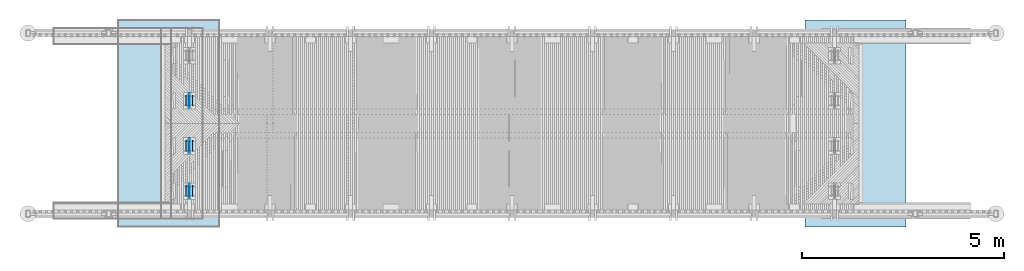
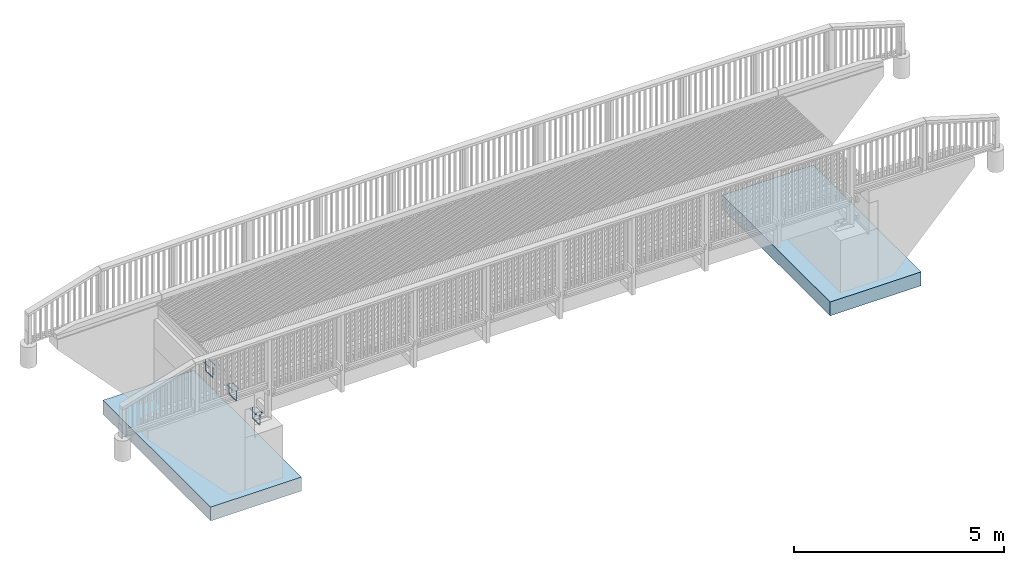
# One storey, part 1 of 52: 6 reinforcing bars, 3 mechanical fasteners, 2 slabs.
"""IFC2X3 building model written with IfcOpenShell, lengths in millimetres."""

from ifc_helpers import new_model, si_unit, frame, origin_with_axes, place, context, subcontext, project, spatial, faceted_brep, source, transform, mapped, material, type_object, element, save


model = new_model("IFC2X3")

# Units and contexts
model_context = context("Model", 3, precision=1e-05, world=origin_with_axes())
body_context = subcontext(model_context, "Body", "Model", "MODEL_VIEW")
ifc_project = project(units=[si_unit("LENGTHUNIT", "METRE", prefix="MILLI"), si_unit("AREAUNIT", "SQUARE_METRE"), si_unit("VOLUMEUNIT", "CUBIC_METRE"), si_unit("MASSUNIT", "GRAM", prefix="KILO"), si_unit("TIMEUNIT", "SECOND"), si_unit("PLANEANGLEUNIT", "RADIAN"), si_unit("SOLIDANGLEUNIT", "STERADIAN"), si_unit("THERMODYNAMICTEMPERATUREUNIT", "DEGREE_CELSIUS"), si_unit("LUMINOUSINTENSITYUNIT", "LUMEN")], contexts=[model_context])

# Site, building, storey
site_placement = place(None, origin_with_axes())
site = spatial("IfcSite", under=ifc_project, at=site_placement, Name="Undefined", CompositionType="ELEMENT")
building_placement = place(site_placement, origin_with_axes())
building = spatial("IfcBuilding", under=site, at=building_placement, Name="Undefined", CompositionType="ELEMENT")
storey_placement = place(building_placement, origin_with_axes())
storey = spatial("IfcBuildingStorey", under=building, at=storey_placement, Name="Undefined", CompositionType="ELEMENT", Elevation=0.0)

# Slabs
ifc_material_1 = material(Name="CONCRETE/Concrete_Undefined")
slab_type = type_object("IfcSlabType", Name="400*2500", PredefinedType="NOTDEFINED")
for number, where, z_axis, x_axis in (
    (1, (17765.0, 4930.0, 200.0), (-1.0, 0.0, 0.0), (0.0, -1.0, 0.0)),
    (2, (-1765.0, 4930.0, 200.0), (1.0, 0.0, 0.0), (0.0, -1.0, 0.0)),
):
    element("IfcSlab", number, at=place(storey_placement, frame(where, z_axis=z_axis, x_axis=x_axis)), inside=storey, type_object=slab_type, material=ifc_material_1, Name="PERUSLAATTA", ObjectType="400*2500", PredefinedType="FLOOR", context=body_context, shape_type="Brep", body=[
        faceted_brep([(0.0, -200.0, 0.0), (0.0, -200.0, 2500.0), (0.0, 200.0, 2500.0), (0.0, 200.0, 0.0), (5130.0, -200.0, 2500.0), (5130.0, 200.0, 2500.0), (5130.0, -200.0, 0.0), (5130.0, 200.0, 0.0)], [[[0, 1, 2, 3]], [[1, 4, 5, 2]], [[4, 6, 7, 5]], [[6, 0, 3, 7]], [[5, 7, 3, 2]], [[6, 4, 1, 0]]]),
    ])

# Reinforcing bars
ifc_material_2 = material(Name="A500HW")
shared_shape_1 = source(origin_with_axes(), body_context, "Body", "Brep", [
    faceted_brep([(9.95929214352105, -5.74999999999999, -1.31778448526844e-16), (9.95929214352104, 5.75000000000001, -1.31778448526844e-16), (-4.46864767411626e-15, 11.5, 5.31556664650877e-32), (-9.95929214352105, 5.75, 1.31778448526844e-16), (-9.95929214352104, -5.75, 1.31778448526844e-16), (0.0, -11.5, 0.0), (-9.95929214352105, -5.75, -268.5), (-3.5527136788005e-15, -11.5, -268.5), (-9.95929214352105, 5.75, -268.5), (-8.02136135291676e-15, 11.5, -268.5), (9.95929214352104, 5.75000000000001, -268.5), (9.95929214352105, -5.74999999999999, -268.5), (-4.40480021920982, -5.75, -289.229646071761), (4.22019978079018, -11.5, -284.25), (-4.40480021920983, 5.75, -289.229646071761), (4.22019978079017, 11.5, -284.25), (12.8451997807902, 5.75000000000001, -279.27035392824), (12.8451997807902, -5.74999999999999, -279.27035392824), (10.7703539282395, -5.75, -304.40480021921), (15.75, -11.5, -295.77980021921), (10.7703539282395, 5.75, -304.40480021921), (15.75, 11.5, -295.77980021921), (20.7296460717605, 5.75000000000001, -287.15480021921), (20.7296460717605, -5.74999999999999, -287.15480021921), (31.5, -5.75, -309.959292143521), (31.5, -11.5, -300.0), (31.5, 5.75, -309.959292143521), (31.5, 11.5, -300.0), (31.5, 5.75000000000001, -290.040707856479), (31.5, -5.74999999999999, -290.040707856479), (323.5, -5.75, -309.959292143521), (323.5, -11.5, -300.0), (323.5, 5.75, -309.959292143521), (323.5, 11.5, -300.0), (323.5, 5.75000000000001, -290.040707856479), (323.5, -5.74999999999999, -290.040707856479), (344.229646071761, -5.75, -304.40480021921), (339.25, -11.5, -295.77980021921), (344.229646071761, 5.75, -304.40480021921), (339.25, 11.5, -295.77980021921), (334.270353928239, 5.75000000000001, -287.15480021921), (334.270353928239, -5.74999999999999, -287.15480021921), (359.40480021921, -5.75, -289.229646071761), (350.77980021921, -11.5, -284.25), (359.40480021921, 5.75, -289.229646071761), (350.77980021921, 11.5, -284.25), (342.15480021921, 5.75000000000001, -279.27035392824), (342.15480021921, -5.74999999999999, -279.27035392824), (364.959292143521, -5.75, -268.5), (355.0, -11.5, -268.5), (364.959292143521, 5.75, -268.5), (355.0, 11.5, -268.5), (345.040707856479, 5.75000000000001, -268.5), (345.040707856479, -5.74999999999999, -268.5), (364.959292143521, -5.75, 0.0), (355.0, -11.5, 0.0), (364.959292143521, 5.75, 0.0), (355.0, 11.5, 0.0), (345.040707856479, 5.75000000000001, 0.0), (345.040707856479, -5.74999999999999, 0.0)], [[[0, 1, 2, 3, 4, 5]], [[5, 4, 6, 7]], [[4, 3, 8, 6]], [[3, 2, 9, 8]], [[2, 1, 10, 9]], [[1, 0, 11, 10]], [[0, 5, 7, 11]], [[7, 6, 12, 13]], [[6, 8, 14, 12]], [[8, 9, 15, 14]], [[9, 10, 16, 15]], [[10, 11, 17, 16]], [[11, 7, 13, 17]], [[13, 12, 18, 19]], [[12, 14, 20, 18]], [[14, 15, 21, 20]], [[15, 16, 22, 21]], [[16, 17, 23, 22]], [[17, 13, 19, 23]], [[19, 18, 24, 25]], [[18, 20, 26, 24]], [[20, 21, 27, 26]], [[21, 22, 28, 27]], [[22, 23, 29, 28]], [[23, 19, 25, 29]], [[25, 24, 30, 31]], [[24, 26, 32, 30]], [[26, 27, 33, 32]], [[27, 28, 34, 33]], [[28, 29, 35, 34]], [[29, 25, 31, 35]], [[31, 30, 36, 37]], [[30, 32, 38, 36]], [[32, 33, 39, 38]], [[33, 34, 40, 39]], [[34, 35, 41, 40]], [[35, 31, 37, 41]], [[37, 36, 42, 43]], [[36, 38, 44, 42]], [[38, 39, 45, 44]], [[39, 40, 46, 45]], [[40, 41, 47, 46]], [[41, 37, 43, 47]], [[43, 42, 48, 49]], [[42, 44, 50, 48]], [[44, 45, 51, 50]], [[45, 46, 52, 51]], [[46, 47, 53, 52]], [[47, 43, 49, 53]], [[49, 48, 54, 55]], [[48, 50, 56, 54]], [[50, 51, 57, 56]], [[51, 52, 58, 57]], [[52, 53, 59, 58]], [[53, 49, 55, 59]], [[55, 54, 56, 57, 58, 59]]]),
])
for number, where, z_axis, x_axis, name in (
    (3, (0.0, 3102.50000000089, 1637.32999999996), (0.0, 0.0, 1.0), (0.0, -1.0, 0.0), "REBAR"),
    (4, (0.0, 1627.5, 1637.32999999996), (0.0, 0.0, 1.0), (0.0, 1.0, 0.0), "REBAR"),
    (5, (0.0, 507.5, 1615.32999999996), (0.0, 0.0, 1.0), (0.0, 1.0, 0.0), "REBAR"),
    (6, (0.0, 507.5, 1615.32999999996), (0.0, 0.0, 1.0), (0.0, 1.0, 0.0), "REBAR"),
    (7, (0.0, 1627.5, 1637.32999999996), (0.0, 0.0, 1.0), (0.0, 1.0, 0.0), "REBAR"),
    (8, (0.0, 3102.50000000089, 1637.32999999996), (0.0, 0.0, 1.0), (0.0, -1.0, 0.0), "REBAR"),
):
    element("IfcReinforcingBar", number, at=place(storey_placement, frame(where, z_axis=z_axis, x_axis=x_axis)), inside=storey, material=ifc_material_2, Name=name, BarRole="NOTDEFINED", CrossSectionArea=0.0, NominalDiameter=23.0, context=body_context, shape_type="MappedRepresentation", body=[
        mapped(shared_shape_1, transform((0.0, 0.0, 420.0))),
    ])

# Mechanical fasteners
ifc_material_3 = material(Name="Undefined")
mechanical_fastener_type = type_object("IfcMechanicalFastenerType", Name="Bolt assembly")
shared_shape_2 = source(origin_with_axes(), body_context, "Body", "Brep", [
    faceted_brep([(17.3205080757, -238.7, 0.0), (8.66025403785, -238.7, 15.0000000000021), (-8.66025403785, -238.7, 15.0000000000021), (-17.3205080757, -238.7, 0.0), (-8.66025403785, -238.7, -15.0000000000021), (8.66025403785, -238.7, -15.0000000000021), (8.66025403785, -225.5, -15.0000000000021), (-8.66025403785, -225.5, -15.0000000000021), (-17.3205080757, -225.5, 0.0), (-8.66025403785, -225.5, 15.0000000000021), (8.66025403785, -225.5, 15.0000000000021), (17.3205080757, -225.5, 0.0), (10.0, -225.5, 0.0), (8.66025403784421, -225.5, 5.0000000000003), (4.9999999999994, -225.5, 8.66025403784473), (-1.03633598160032e-12, -225.5, 10.0), (-5.00000000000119, -225.5, 8.6602540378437), (-8.66025403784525, -225.5, 4.99999999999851), (-10.0, -225.5, -2.07267196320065e-12), (-8.66025403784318, -225.5, -5.00000000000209), (-4.99999999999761, -225.5, -8.66025403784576), (3.09790571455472e-12, -225.5, -10.0), (5.00000000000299, -225.5, -8.66025403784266), (8.66025403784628, -225.5, -4.99999999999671), (8.66025403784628, 44.5, -4.99999999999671), (5.00000000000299, 44.5, -8.66025403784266), (3.09790571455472e-12, 44.5, -10.0), (-4.99999999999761, 44.5, -8.66025403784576), (-8.66025403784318, 44.5, -5.00000000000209), (-10.0, 44.5, -2.07267196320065e-12), (-8.66025403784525, 44.5, 4.99999999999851), (-5.00000000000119, 44.5, 8.6602540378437), (-1.03633598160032e-12, 44.5, 10.0), (4.9999999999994, 44.5, 8.66025403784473), (8.66025403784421, 44.5, 5.0000000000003), (10.0, 44.5, 0.0), (18.5, -225.5, 0.0), (16.0214699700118, -225.5, 9.25000000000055), (9.2499999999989, -225.5, 16.0214699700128), (-1.9172215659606e-12, -225.5, 18.5), (-9.25000000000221, -225.5, 16.0214699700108), (-16.0214699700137, -225.5, 9.24999999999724), (-18.5, -225.5, -3.83444313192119e-12), (-16.0214699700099, -225.5, -9.25000000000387), (-9.24999999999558, -225.5, -16.0214699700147), (5.73112557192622e-12, -225.5, -18.5), (9.25000000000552, -225.5, -16.0214699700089), (16.0214699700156, -225.5, -9.24999999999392), (16.0214699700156, -222.5, -9.24999999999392), (9.25000000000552, -222.5, -16.0214699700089), (5.73112557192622e-12, -222.5, -18.5), (-9.24999999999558, -222.5, -16.0214699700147), (-16.0214699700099, -222.5, -9.25000000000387), (-18.5, -222.5, -3.83444313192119e-12), (-16.0214699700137, -222.5, 9.24999999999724), (-9.25000000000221, -222.5, 16.0214699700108), (-1.9172215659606e-12, -222.5, 18.5), (9.2499999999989, -222.5, 16.0214699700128), (16.0214699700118, -222.5, 9.25000000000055), (18.5, -222.5, 0.0), (18.5, 12.5, 0.0), (16.0214699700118, 12.5, 9.25000000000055), (9.2499999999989, 12.5, 16.0214699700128), (-1.9172215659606e-12, 12.5, 18.5), (-9.25000000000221, 12.5, 16.0214699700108), (-16.0214699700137, 12.5, 9.24999999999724), (-18.5, 12.5, -3.83444313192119e-12), (-16.0214699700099, 12.5, -9.25000000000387), (-9.24999999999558, 12.5, -16.0214699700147), (5.73112557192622e-12, 12.5, -18.5), (9.25000000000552, 12.5, -16.0214699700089), (16.0214699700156, 12.5, -9.24999999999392), (16.0214699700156, 15.5, -9.24999999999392), (9.25000000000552, 15.5, -16.0214699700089), (5.73112557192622e-12, 15.5, -18.5), (-9.24999999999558, 15.5, -16.0214699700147), (-16.0214699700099, 15.5, -9.25000000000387), (-18.5, 15.5, -3.83444313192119e-12), (-16.0214699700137, 15.5, 9.24999999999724), (-9.25000000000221, 15.5, 16.0214699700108), (-1.9172215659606e-12, 15.5, 18.5), (9.2499999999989, 15.5, 16.0214699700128), (16.0214699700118, 15.5, 9.25000000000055), (18.5, 15.5, 0.0), (17.3205080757, 15.5, 0.0), (8.66025403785, 15.5, 15.0000000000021), (-8.66025403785, 15.5, 15.0000000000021), (-17.3205080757, 15.5, 0.0), (-8.66025403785, 15.5, -15.0000000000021), (8.66025403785, 15.5, -15.0000000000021), (8.66025403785, 31.5, -15.0000000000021), (-8.66025403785, 31.5, -15.0000000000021), (-17.3205080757, 31.5, 0.0), (-8.66025403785, 31.5, 15.0000000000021), (8.66025403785, 31.5, 15.0000000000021), (17.3205080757, 31.5, 0.0)], [[[0, 1, 2, 3, 4, 5]], [[6, 7, 8, 9, 10, 11]], [[0, 11, 10, 1]], [[1, 10, 9, 2]], [[2, 9, 8, 3]], [[3, 8, 7, 4]], [[4, 7, 6, 5]], [[5, 6, 11, 0]], [[12, 13, 14, 15, 16, 17, 18, 19, 20, 21, 22, 23]], [[24, 25, 26, 27, 28, 29, 30, 31, 32, 33, 34, 35]], [[12, 35, 34, 13]], [[13, 34, 33, 14]], [[14, 33, 32, 15]], [[15, 32, 31, 16]], [[16, 31, 30, 17]], [[17, 30, 29, 18]], [[18, 29, 28, 19]], [[19, 28, 27, 20]], [[20, 27, 26, 21]], [[21, 26, 25, 22]], [[22, 25, 24, 23]], [[23, 24, 35, 12]], [[36, 37, 38, 39, 40, 41, 42, 43, 44, 45, 46, 47]], [[48, 49, 50, 51, 52, 53, 54, 55, 56, 57, 58, 59]], [[36, 59, 58, 37]], [[37, 58, 57, 38]], [[38, 57, 56, 39]], [[39, 56, 55, 40]], [[40, 55, 54, 41]], [[41, 54, 53, 42]], [[42, 53, 52, 43]], [[43, 52, 51, 44]], [[44, 51, 50, 45]], [[45, 50, 49, 46]], [[46, 49, 48, 47]], [[47, 48, 59, 36]], [[60, 61, 62, 63, 64, 65, 66, 67, 68, 69, 70, 71]], [[72, 73, 74, 75, 76, 77, 78, 79, 80, 81, 82, 83]], [[60, 83, 82, 61]], [[61, 82, 81, 62]], [[62, 81, 80, 63]], [[63, 80, 79, 64]], [[64, 79, 78, 65]], [[65, 78, 77, 66]], [[66, 77, 76, 67]], [[67, 76, 75, 68]], [[68, 75, 74, 69]], [[69, 74, 73, 70]], [[70, 73, 72, 71]], [[71, 72, 83, 60]], [[84, 85, 86, 87, 88, 89]], [[90, 91, 92, 93, 94, 95]], [[84, 95, 94, 85]], [[85, 94, 93, 86]], [[86, 93, 92, 87]], [[87, 92, 91, 88]], [[88, 91, 90, 89]], [[89, 90, 95, 84]]]),
    faceted_brep([(11.0, -222.4, 0.0), (9.52627944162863, -222.4, 5.50000000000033), (5.49999999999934, -222.4, 9.5262794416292), (-1.13996957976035e-12, -222.4, 11.0), (-5.50000000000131, -222.4, 9.52627944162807), (-9.52627944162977, -222.4, 5.49999999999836), (-11.0, -222.4, -2.27993915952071e-12), (-9.5262794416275, -222.4, -5.5000000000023), (-5.49999999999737, -222.4, -9.52627944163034), (3.40769628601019e-12, -222.4, -11.0), (5.50000000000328, -222.4, -9.52627944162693), (9.52627944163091, -222.4, -5.49999999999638), (9.52627944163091, -212.4, -5.49999999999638), (5.50000000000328, -212.4, -9.52627944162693), (3.40769628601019e-12, -212.4, -11.0), (-5.49999999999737, -212.4, -9.52627944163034), (-9.5262794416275, -212.4, -5.5000000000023), (-11.0, -212.4, -2.27993915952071e-12), (-9.52627944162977, -212.4, 5.49999999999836), (-5.50000000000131, -212.4, 9.52627944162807), (-1.13996957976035e-12, -212.4, 11.0), (5.49999999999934, -212.4, 9.5262794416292), (9.52627944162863, -212.4, 5.50000000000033), (11.0, -212.4, 0.0), (11.0, 2.4, 0.0), (9.52627944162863, 2.4, 5.50000000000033), (5.49999999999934, 2.4, 9.5262794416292), (-1.13996957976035e-12, 2.4, 11.0), (-5.50000000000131, 2.4, 9.52627944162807), (-9.52627944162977, 2.4, 5.49999999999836), (-11.0, 2.4, -2.27993915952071e-12), (-9.5262794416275, 2.4, -5.5000000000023), (-5.49999999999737, 2.4, -9.52627944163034), (3.40769628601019e-12, 2.4, -11.0), (5.50000000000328, 2.4, -9.52627944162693), (9.52627944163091, 2.4, -5.49999999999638), (9.52627944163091, 12.5, -5.49999999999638), (5.50000000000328, 12.5, -9.52627944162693), (3.40769628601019e-12, 12.5, -11.0), (-5.49999999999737, 12.5, -9.52627944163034), (-9.5262794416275, 12.5, -5.5000000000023), (-11.0, 12.5, -2.27993915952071e-12), (-9.52627944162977, 12.5, 5.49999999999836), (-5.50000000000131, 12.5, 9.52627944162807), (-1.13996957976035e-12, 12.5, 11.0), (5.49999999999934, 12.5, 9.5262794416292), (9.52627944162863, 12.5, 5.50000000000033), (11.0, 12.5, 0.0)], [[[0, 1, 2, 3, 4, 5, 6, 7, 8, 9, 10, 11]], [[12, 13, 14, 15, 16, 17, 18, 19, 20, 21, 22, 23]], [[0, 23, 22, 1]], [[1, 22, 21, 2]], [[2, 21, 20, 3]], [[3, 20, 19, 4]], [[4, 19, 18, 5]], [[5, 18, 17, 6]], [[6, 17, 16, 7]], [[7, 16, 15, 8]], [[8, 15, 14, 9]], [[9, 14, 13, 10]], [[10, 13, 12, 11]], [[11, 12, 23, 0]], [[24, 25, 26, 27, 28, 29, 30, 31, 32, 33, 34, 35]], [[36, 37, 38, 39, 40, 41, 42, 43, 44, 45, 46, 47]], [[24, 47, 46, 25]], [[25, 46, 45, 26]], [[26, 45, 44, 27]], [[27, 44, 43, 28]], [[28, 43, 42, 29]], [[29, 42, 41, 30]], [[30, 41, 40, 31]], [[31, 40, 39, 32]], [[32, 39, 38, 33]], [[33, 38, 37, 34]], [[34, 37, 36, 35]], [[35, 36, 47, 24]]]),
])
mechanical_fastener_placement = place(storey_placement, frame((-80.0, 3030.00000000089, 2067.33), z_axis=(0.0, 0.0, 1.0), x_axis=(1.0, 0.0, 0.0)))
element("IfcMechanicalFastener", 9, at=mechanical_fastener_placement, inside=storey, type_object=mechanical_fastener_type, material=ifc_material_3, Name="Bolt assembly", NominalDiameter=20.0, NominalLength=270.0, context=body_context, shape_type="MappedRepresentation", body=[
    mapped(shared_shape_2, transform((0.0, 0.0, 0.0))),
    mapped(shared_shape_2, transform((160.0, 0.0, 0.0))),
])
shared_shape_3 = source(origin_with_axes(), body_context, "Body", "Brep", [
    faceted_brep([(17.3205080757, -28.7, 0.0), (8.66025403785, -28.7, 15.0000000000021), (-8.66025403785, -28.7, 15.0000000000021), (-17.3205080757, -28.7, 0.0), (-8.66025403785, -28.7, -15.0000000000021), (8.66025403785, -28.7, -15.0000000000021), (8.66025403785, -15.5, -15.0000000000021), (-8.66025403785, -15.5, -15.0000000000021), (-17.3205080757, -15.5, 0.0), (-8.66025403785, -15.5, 15.0000000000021), (8.66025403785, -15.5, 15.0000000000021), (17.3205080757, -15.5, 0.0), (10.0, -15.5, 0.0), (8.66025403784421, -15.5, 5.0000000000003), (4.9999999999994, -15.5, 8.66025403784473), (-1.03633598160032e-12, -15.5, 10.0), (-5.00000000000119, -15.5, 8.6602540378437), (-8.66025403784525, -15.5, 4.99999999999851), (-10.0, -15.5, -2.07267196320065e-12), (-8.66025403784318, -15.5, -5.00000000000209), (-4.99999999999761, -15.5, -8.66025403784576), (3.09790571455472e-12, -15.5, -10.0), (5.00000000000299, -15.5, -8.66025403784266), (8.66025403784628, -15.5, -4.99999999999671), (8.66025403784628, 254.5, -4.99999999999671), (5.00000000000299, 254.5, -8.66025403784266), (3.09790571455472e-12, 254.5, -10.0), (-4.99999999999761, 254.5, -8.66025403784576), (-8.66025403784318, 254.5, -5.00000000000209), (-10.0, 254.5, -2.07267196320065e-12), (-8.66025403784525, 254.5, 4.99999999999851), (-5.00000000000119, 254.5, 8.6602540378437), (-1.03633598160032e-12, 254.5, 10.0), (4.9999999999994, 254.5, 8.66025403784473), (8.66025403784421, 254.5, 5.0000000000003), (10.0, 254.5, 0.0), (18.5, -15.5, 0.0), (16.0214699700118, -15.5, 9.25000000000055), (9.2499999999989, -15.5, 16.0214699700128), (-1.9172215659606e-12, -15.5, 18.5), (-9.25000000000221, -15.5, 16.0214699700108), (-16.0214699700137, -15.5, 9.24999999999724), (-18.5, -15.5, -3.83444313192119e-12), (-16.0214699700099, -15.5, -9.25000000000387), (-9.24999999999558, -15.5, -16.0214699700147), (5.73112557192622e-12, -15.5, -18.5), (9.25000000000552, -15.5, -16.0214699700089), (16.0214699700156, -15.5, -9.24999999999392), (16.0214699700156, -12.5, -9.24999999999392), (9.25000000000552, -12.5, -16.0214699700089), (5.73112557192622e-12, -12.5, -18.5), (-9.24999999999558, -12.5, -16.0214699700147), (-16.0214699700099, -12.5, -9.25000000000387), (-18.5, -12.5, -3.83444313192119e-12), (-16.0214699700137, -12.5, 9.24999999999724), (-9.25000000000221, -12.5, 16.0214699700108), (-1.9172215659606e-12, -12.5, 18.5), (9.2499999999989, -12.5, 16.0214699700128), (16.0214699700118, -12.5, 9.25000000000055), (18.5, -12.5, 0.0), (18.5, 222.5, 0.0), (16.0214699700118, 222.5, 9.25000000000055), (9.2499999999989, 222.5, 16.0214699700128), (-1.9172215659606e-12, 222.5, 18.5), (-9.25000000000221, 222.5, 16.0214699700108), (-16.0214699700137, 222.5, 9.24999999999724), (-18.5, 222.5, -3.83444313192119e-12), (-16.0214699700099, 222.5, -9.25000000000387), (-9.24999999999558, 222.5, -16.0214699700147), (5.73112557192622e-12, 222.5, -18.5), (9.25000000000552, 222.5, -16.0214699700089), (16.0214699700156, 222.5, -9.24999999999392), (16.0214699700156, 225.5, -9.24999999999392), (9.25000000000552, 225.5, -16.0214699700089), (5.73112557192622e-12, 225.5, -18.5), (-9.24999999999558, 225.5, -16.0214699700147), (-16.0214699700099, 225.5, -9.25000000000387), (-18.5, 225.5, -3.83444313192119e-12), (-16.0214699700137, 225.5, 9.24999999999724), (-9.25000000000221, 225.5, 16.0214699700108), (-1.9172215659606e-12, 225.5, 18.5), (9.2499999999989, 225.5, 16.0214699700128), (16.0214699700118, 225.5, 9.25000000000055), (18.5, 225.5, 0.0), (17.3205080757, 225.5, 0.0), (8.66025403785, 225.5, 15.0000000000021), (-8.66025403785, 225.5, 15.0000000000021), (-17.3205080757, 225.5, 0.0), (-8.66025403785, 225.5, -15.0000000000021), (8.66025403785, 225.5, -15.0000000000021), (8.66025403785, 241.5, -15.0000000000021), (-8.66025403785, 241.5, -15.0000000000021), (-17.3205080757, 241.5, 0.0), (-8.66025403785, 241.5, 15.0000000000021), (8.66025403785, 241.5, 15.0000000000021), (17.3205080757, 241.5, 0.0)], [[[0, 1, 2, 3, 4, 5]], [[6, 7, 8, 9, 10, 11]], [[0, 11, 10, 1]], [[1, 10, 9, 2]], [[2, 9, 8, 3]], [[3, 8, 7, 4]], [[4, 7, 6, 5]], [[5, 6, 11, 0]], [[12, 13, 14, 15, 16, 17, 18, 19, 20, 21, 22, 23]], [[24, 25, 26, 27, 28, 29, 30, 31, 32, 33, 34, 35]], [[12, 35, 34, 13]], [[13, 34, 33, 14]], [[14, 33, 32, 15]], [[15, 32, 31, 16]], [[16, 31, 30, 17]], [[17, 30, 29, 18]], [[18, 29, 28, 19]], [[19, 28, 27, 20]], [[20, 27, 26, 21]], [[21, 26, 25, 22]], [[22, 25, 24, 23]], [[23, 24, 35, 12]], [[36, 37, 38, 39, 40, 41, 42, 43, 44, 45, 46, 47]], [[48, 49, 50, 51, 52, 53, 54, 55, 56, 57, 58, 59]], [[36, 59, 58, 37]], [[37, 58, 57, 38]], [[38, 57, 56, 39]], [[39, 56, 55, 40]], [[40, 55, 54, 41]], [[41, 54, 53, 42]], [[42, 53, 52, 43]], [[43, 52, 51, 44]], [[44, 51, 50, 45]], [[45, 50, 49, 46]], [[46, 49, 48, 47]], [[47, 48, 59, 36]], [[60, 61, 62, 63, 64, 65, 66, 67, 68, 69, 70, 71]], [[72, 73, 74, 75, 76, 77, 78, 79, 80, 81, 82, 83]], [[60, 83, 82, 61]], [[61, 82, 81, 62]], [[62, 81, 80, 63]], [[63, 80, 79, 64]], [[64, 79, 78, 65]], [[65, 78, 77, 66]], [[66, 77, 76, 67]], [[67, 76, 75, 68]], [[68, 75, 74, 69]], [[69, 74, 73, 70]], [[70, 73, 72, 71]], [[71, 72, 83, 60]], [[84, 85, 86, 87, 88, 89]], [[90, 91, 92, 93, 94, 95]], [[84, 95, 94, 85]], [[85, 94, 93, 86]], [[86, 93, 92, 87]], [[87, 92, 91, 88]], [[88, 91, 90, 89]], [[89, 90, 95, 84]]]),
    faceted_brep([(11.0, -12.4, 0.0), (9.52627944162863, -12.4, 5.50000000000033), (5.49999999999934, -12.4, 9.5262794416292), (-1.13996957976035e-12, -12.4, 11.0), (-5.50000000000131, -12.4, 9.52627944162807), (-9.52627944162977, -12.4, 5.49999999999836), (-11.0, -12.4, -2.27993915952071e-12), (-9.5262794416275, -12.4, -5.5000000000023), (-5.49999999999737, -12.4, -9.52627944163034), (3.40769628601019e-12, -12.4, -11.0), (5.50000000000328, -12.4, -9.52627944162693), (9.52627944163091, -12.4, -5.49999999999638), (9.52627944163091, -2.4, -5.49999999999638), (5.50000000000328, -2.4, -9.52627944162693), (3.40769628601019e-12, -2.4, -11.0), (-5.49999999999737, -2.4, -9.52627944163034), (-9.5262794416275, -2.4, -5.5000000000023), (-11.0, -2.4, -2.27993915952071e-12), (-9.52627944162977, -2.4, 5.49999999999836), (-5.50000000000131, -2.4, 9.52627944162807), (-1.13996957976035e-12, -2.4, 11.0), (5.49999999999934, -2.4, 9.5262794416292), (9.52627944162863, -2.4, 5.50000000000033), (11.0, -2.4, 0.0), (11.0, 212.4, 0.0), (9.52627944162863, 212.4, 5.50000000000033), (5.49999999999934, 212.4, 9.5262794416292), (-1.13996957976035e-12, 212.4, 11.0), (-5.50000000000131, 212.4, 9.52627944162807), (-9.52627944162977, 212.4, 5.49999999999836), (-11.0, 212.4, -2.27993915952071e-12), (-9.5262794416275, 212.4, -5.5000000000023), (-5.49999999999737, 212.4, -9.52627944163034), (3.40769628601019e-12, 212.4, -11.0), (5.50000000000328, 212.4, -9.52627944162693), (9.52627944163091, 212.4, -5.49999999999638), (9.52627944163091, 222.5, -5.49999999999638), (5.50000000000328, 222.5, -9.52627944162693), (3.40769628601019e-12, 222.5, -11.0), (-5.49999999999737, 222.5, -9.52627944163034), (-9.5262794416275, 222.5, -5.5000000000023), (-11.0, 222.5, -2.27993915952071e-12), (-9.52627944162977, 222.5, 5.49999999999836), (-5.50000000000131, 222.5, 9.52627944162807), (-1.13996957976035e-12, 222.5, 11.0), (5.49999999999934, 222.5, 9.5262794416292), (9.52627944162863, 222.5, 5.50000000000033), (11.0, 222.5, 0.0)], [[[0, 1, 2, 3, 4, 5, 6, 7, 8, 9, 10, 11]], [[12, 13, 14, 15, 16, 17, 18, 19, 20, 21, 22, 23]], [[0, 23, 22, 1]], [[1, 22, 21, 2]], [[2, 21, 20, 3]], [[3, 20, 19, 4]], [[4, 19, 18, 5]], [[5, 18, 17, 6]], [[6, 17, 16, 7]], [[7, 16, 15, 8]], [[8, 15, 14, 9]], [[9, 14, 13, 10]], [[10, 13, 12, 11]], [[11, 12, 23, 0]], [[24, 25, 26, 27, 28, 29, 30, 31, 32, 33, 34, 35]], [[36, 37, 38, 39, 40, 41, 42, 43, 44, 45, 46, 47]], [[24, 47, 46, 25]], [[25, 46, 45, 26]], [[26, 45, 44, 27]], [[27, 44, 43, 28]], [[28, 43, 42, 29]], [[29, 42, 41, 30]], [[30, 41, 40, 31]], [[31, 40, 39, 32]], [[32, 39, 38, 33]], [[33, 38, 37, 34]], [[34, 37, 36, 35]], [[35, 36, 47, 24]]]),
])
for number, where, z_axis, x_axis, name in (
    (10, (-80.0, 1700.0, 2067.33), (0.0, 0.0, 1.0), (1.0, 0.0, 0.0), "Bolt assembly"),
    (11, (-80.0, 580.0, 2045.33), (0.0, 0.0, 1.0), (1.0, 0.0, 0.0), "Bolt assembly"),
):
    element("IfcMechanicalFastener", number, at=place(storey_placement, frame(where, z_axis=z_axis, x_axis=x_axis)), inside=storey, type_object=mechanical_fastener_type, material=ifc_material_3, Name=name, NominalDiameter=20.0, NominalLength=270.0, context=body_context, shape_type="MappedRepresentation", body=[
        mapped(shared_shape_3, transform((0.0, 0.0, 0.0))),
        mapped(shared_shape_3, transform((160.0, 0.0, 0.0))),
    ])

save(model, "model.ifc")
